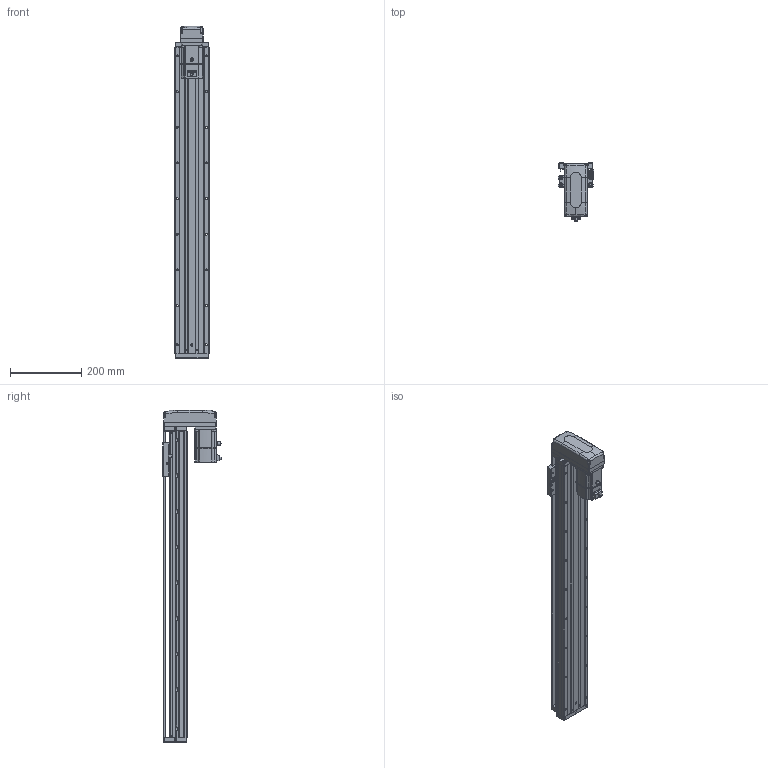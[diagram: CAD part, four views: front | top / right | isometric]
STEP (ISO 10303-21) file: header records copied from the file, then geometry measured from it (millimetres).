
FILE_DESCRIPTION (( 'STEP AP203' ), '1' );
FILE_NAME ('KTHA100-700-BM-M20-C4L.step', '2022-04-26T01:54:08', ( '微软用户' ), ( '微软中国' ), 'SwSTEP 2.0', 'SolidWorks 2020', '' );
FILE_SCHEMA (( 'CONFIG_CONTROL_DESIGN' ));
Length unit declared in the file: millimetre
Products named in the file (17): GBT 70.3-M3℅6; CTHA60-017; _X2_4E0983F1_X0_200W_1; KTHA100-001_860; CTHA60-021; CTHA86-015-1_CTHA86-015-2; KTHA100-002; GBT77-2000 M3×3; CTHA86-033; KTHA100-004; GBT 70.1-M3℅6; KTHA100-700-BM-M20-C4L; KTHA100-005; GBT70.1 M5℅16; GB¨uT 70.2-M3¡Á5_M3¡Á6; CTHA60-016; EE_SX911P_R
Assembly tree (57 placements, depth 2):
  KTHA100-700-BM-M20-C4L
    KTHA100-001_860
    KTHA100-002
    KTHA100-004
    KTHA100-005
    GB¨uT 70.2-M3¡Á5_M3¡Á6  x6
    EE_SX911P_R  x3
    CTHA60-017  x3
    CTHA60-021  x2
    GBT77-2000 M3×3  x6
    GBT 70.1-M3℅6  x10
    GBT70.1 M5℅16  x14
    CTHA60-016  x2
    GBT 70.3-M3℅6  x4
    _X2_4E0983F1_X0_200W_1
    CTHA86-015-1_CTHA86-015-2
    CTHA86-033
Bounding box: 98.82 x 163.2 x 931 mm (x, y, z)
Volume: 4050104.8 mm3; surface area: 659339.5 mm2
Topology: 60 solids, 60 shells, 2457 faces, 5889 edges, 3652 vertices
Faces by surface type: plane 1256, cylinder 683, cone 311, torus 116, bspline 75, sphere 16
Entity records: 42594 total; most frequent: CARTESIAN_POINT 8560, DIRECTION 6602, ORIENTED_EDGE 6390, EDGE_CURVE 3195, AXIS2_PLACEMENT_3D 2302, VERTEX_POINT 2012, LINE 1998, VECTOR 1998
